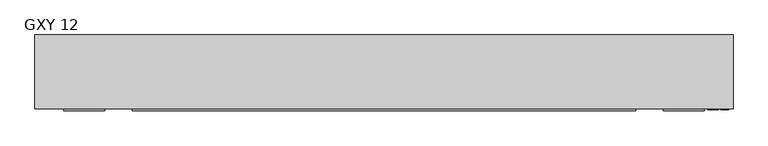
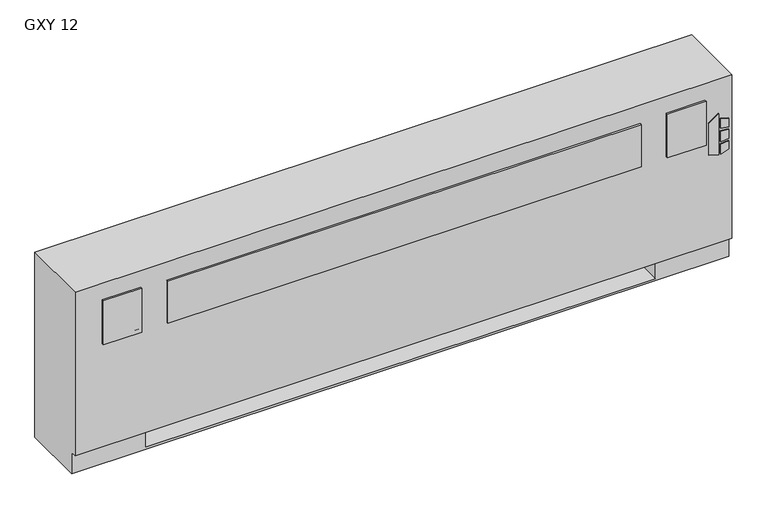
"""IFC4 building model written with IfcOpenShell, lengths in millimetres: proxy geometry, Vertical_Fan_Coil_Unit_-_GXY_-_IEC_-_2-Pipe_FS-FR_LH_2022 : GXY 12."""

from ifc_helpers import new_model, si_unit, point, frame, frame_2d, origin, place, context, project, spatial, polyline, circle_curve, trimmed, segment, composite_curve, outline, extrude, source, transform, mapped, element, save
from ifc_brep_helpers import plane_surface, revolved_surface, advanced_brep


def gxy_12_1a190441(model_context):
    return source(origin(), model_context, "Body", "SolidModel", [
        extrude(outline(polyline([(391.6086829, 1154.1868862), (381.6606126, 1186.3602728), (523.831537, 1186.3602728), (500.8095309, 1154.1868862), (391.6086829, 1154.1868862)])), frame((0.0, 12.7, 0.0), z_axis=(0.0, 1.0, 0.0), x_axis=(0.0, 0.0, 1.0)), (0.0, 0.0, 1.0), 3.175),
        extrude(outline(polyline([(470.6079683, 1193.1186058), (467.4055757, 1219.2), (496.6344168, 1219.2), (504.6988318, 1193.1186058), (470.6079683, 1193.1186058)])), frame((0.0, 12.7, 0.0), z_axis=(0.0, 1.0, 0.0), x_axis=(0.0, 0.0, 1.0)), (0.0, 0.0, 1.0), 3.175),
        extrude(outline(polyline([(418.7444414, 1219.2), (415.0789404, 1193.1186058), (381.6606126, 1193.1186058), (390.2948498, 1219.2), (418.7444414, 1219.2)])), frame((0.0, 12.7, 0.0), z_axis=(0.0, 1.0, 0.0), x_axis=(0.0, 0.0, 1.0)), (0.0, 0.0, 1.0), 3.175),
        extrude(outline(polyline([(458.0596028, 1219.2), (460.3414292, 1193.1186058), (424.4038806, 1193.1186058), (427.1451456, 1219.2), (458.0596028, 1219.2)])), frame((0.0, 12.7, 0.0), z_axis=(0.0, 1.0, 0.0), x_axis=(0.0, 0.0, 1.0)), (0.0, 0.0, 1.0), 3.175),
        extrude(outline(polyline([(-711.2, 9.525), (-838.2, 9.525), (-838.2, 15.875), (-711.2, 15.875), (-711.2, 9.525)])), frame((0.0, 0.0, 431.8), z_axis=(0.0, 0.0, 1.0), x_axis=(1.0, 0.0, 0.0)), (0.0, 0.0, 1.0), 152.4),
        extrude(outline(polyline([(930.275, 9.525), (-625.475, 9.525), (-625.475, 15.875), (930.275, 15.875), (930.275, 9.525)])), frame((0.0, 0.0, 431.8), z_axis=(0.0, 0.0, 1.0), x_axis=(1.0, 0.0, 0.0)), (0.0, 0.0, 1.0), 146.05),
        extrude(outline(polyline([(1143.0, 9.525), (1016.0, 9.525), (1016.0, 15.875), (1143.0, 15.875), (1143.0, 9.525)])), frame((0.0, 0.0, 431.8), z_axis=(0.0, 0.0, 1.0), x_axis=(1.0, 0.0, 0.0)), (0.0, 0.0, 1.0), 152.4),
        extrude(outline(polyline([(990.6, 81.534), (990.6, 223.266), (1111.25, 223.266), (1111.25, 81.534), (990.6, 81.534)])), frame((0.0, 0.0, 327.025), z_axis=(0.0, 0.0, 1.0), x_axis=(1.0, 0.0, 0.0)), (0.0, 0.0, 1.0), 260.35),
        extrude(outline(composite_curve([segment(trimmed(circle_curve(frame_2d((78.9432, 398.5514)), 7.9375), [point((78.9432, 406.4889))], [point((78.9432, 390.6139))], False, "CARTESIAN"), True, "CONTINUOUS"), segment(trimmed(circle_curve(frame_2d((78.9432, 398.5514)), 7.9375), [point((78.9432, 390.6139))], [point((78.9432, 406.4889))], False, "CARTESIAN"), True, "CONTINUOUS")], self_intersect=False)), frame((-736.6, 0.0, 0.0), z_axis=(1.0, 0.0, 0.0), x_axis=(0.0, 1.0, 0.0)), (0.0, 0.0, 1.0), 50.8),
        extrude(outline(composite_curve([segment(trimmed(circle_curve(frame_2d((155.9052, 537.3878)), 7.9375), [point((155.9052, 545.3253))], [point((155.9052, 529.4503))], False, "CARTESIAN"), True, "CONTINUOUS"), segment(trimmed(circle_curve(frame_2d((155.9052, 537.3878)), 7.9375), [point((155.9052, 529.4503))], [point((155.9052, 545.3253))], False, "CARTESIAN"), True, "CONTINUOUS")], self_intersect=False)), frame((-736.6, 0.0, 0.0), z_axis=(1.0, 0.0, 0.0), x_axis=(0.0, 1.0, 0.0)), (0.0, 0.0, 1.0), 50.8),
        advanced_brep(
        [(1231.9, 244.475, 641.35), (-927.1, 244.475, 641.35), (-927.1, 15.875, 641.35), (1231.9, 15.875, 641.35), (-927.1, 244.475, 0.0), (1231.9, 244.475, 0.0), (1231.9, 34.925, 0.0), (-927.1, 34.925, 0.0), (990.6, 244.475, 73.025), (1219.2, 244.475, 73.025), (1219.2, 244.475, 628.65), (990.6, 244.475, 628.65), (990.6, 244.475, 418.0400565), (1019.175, 244.475, 418.0400565), (1019.175, 244.475, 388.4099435), (990.6, 244.475, 388.4099435), (990.6, 244.475, 290.5125), (1019.175, 244.475, 290.5125), (1019.175, 244.475, 261.9375), (990.6, 244.475, 261.9375), (990.6, 244.475, 119.0625), (1019.175, 244.475, 119.0625), (1019.175, 244.475, 90.4875), (990.6, 244.475, 90.4875), (-685.8, 244.475, 628.65), (-914.4, 244.475, 628.65), (-914.4, 244.475, 73.025), (-685.8, 244.475, 73.025), (-685.8, 244.475, 90.4875), (-714.375, 244.475, 90.4875), (-714.375, 244.475, 119.0625), (-685.8, 244.475, 119.0625), (-685.8, 244.475, 261.9375), (-714.375, 244.475, 261.9375), (-714.375, 244.475, 290.5125), (-685.8, 244.475, 290.5125), (-685.8, 244.475, 388.4099435), (-714.375, 244.475, 388.4099435), (-714.375, 244.475, 418.0400565), (-685.8, 244.475, 418.0400565), (1008.8626, 244.475, 104.775), (997.7374, 244.475, 104.775), (1008.8626, 244.475, 403.225), (997.7374, 244.475, 403.225), (1008.8626, 244.475, 276.225), (997.7374, 244.475, 276.225), (-692.9374, 244.475, 104.775), (-704.0626, 244.475, 104.775), (-692.9374, 244.475, 276.225), (-704.0626, 244.475, 276.225), (-692.9374, 244.475, 403.225), (-704.0626, 244.475, 403.225), (-927.1, 34.925, 73.025), (-927.1, 15.875, 73.025), (1231.9, 15.875, 73.025), (1231.9, 34.925, 73.025), (-685.8, 34.925, 73.025), (-685.8, 219.075, 73.025), (990.6, 219.075, 73.025), (990.6, 34.925, 73.025), (990.6, 34.925, 6.35), (-685.8, 34.925, 6.35), (990.6, 41.275, 628.65), (1219.2, 41.275, 628.65), (1219.2, 41.275, 73.025), (990.6, 41.275, 73.025), (-685.8, 41.275, 628.65), (-685.8, 41.275, 73.025), (-914.4, 41.275, 73.025), (-914.4, 41.275, 628.65), (990.6, 219.075, 73.025), (990.6, 238.125, 90.4875), (990.6, 238.125, 119.0625), (990.6, 238.125, 261.9375), (990.6, 238.125, 290.5125), (990.6, 238.125, 388.4099435), (990.6, 238.125, 418.0400565), (-685.8, 219.075, 73.025), (-685.8, 238.125, 418.0400565), (-685.8, 238.125, 388.4099435), (-685.8, 238.125, 290.5125), (-685.8, 238.125, 261.9375), (-685.8, 238.125, 119.0625), (-685.8, 238.125, 90.4875), (-685.8, 219.075, 6.35), (990.6, 219.075, 6.35), (1019.175, 238.125, 90.4875), (1019.175, 238.125, 119.0625), (997.7374, 238.125, 104.775), (1008.8626, 238.125, 104.775), (1019.175, 238.125, 261.9375), (1019.175, 238.125, 290.5125), (997.7374, 238.125, 276.225), (1008.8626, 238.125, 276.225), (1019.175, 238.125, 388.4099435), (1019.175, 238.125, 418.0400565), (997.7374, 238.125, 403.225), (1008.8626, 238.125, 403.225), (-714.375, 238.125, 119.0625), (-714.375, 238.125, 90.4875), (-704.0626, 238.125, 104.775), (-692.9374, 238.125, 104.775), (-714.375, 238.125, 290.5125), (-714.375, 238.125, 261.9375), (-704.0626, 238.125, 276.225), (-692.9374, 238.125, 276.225), (-714.375, 238.125, 418.0400565), (-714.375, 238.125, 388.4099435), (-704.0626, 238.125, 403.225), (-692.9374, 238.125, 403.225)],
        [
            (0, 1),
            (1, 2),
            (2, 3),
            (3, 0),
            (4, 5),
            (5, 6),
            (6, 7),
            (7, 4),
            (0, 5),
            (4, 1),
            (8, 9),
            (9, 10),
            (10, 11),
            (11, 12),
            (12, 13),
            (13, 14),
            (14, 15),
            (15, 16),
            (16, 17),
            (17, 18),
            (18, 19),
            (19, 20),
            (20, 21),
            (21, 22),
            (22, 23),
            (23, 8),
            (24, 25),
            (25, 26),
            (26, 27),
            (27, 28),
            (28, 29),
            (29, 30),
            (30, 31),
            (31, 32),
            (32, 33),
            (33, 34),
            (34, 35),
            (35, 36),
            (36, 37),
            (37, 38),
            (38, 39),
            (39, 24),
            (40, 41, circle_curve(frame((1003.3, 244.475, 104.775), z_axis=(0.0, -1.0, 0.0), x_axis=(-1.0, 0.0, 0.0)), 5.5626)),
            (41, 40, circle_curve(frame((1003.3, 244.475, 104.775), z_axis=(0.0, -1.0, 0.0), x_axis=(-1.0, 0.0, 0.0)), 5.5626)),
            (42, 43, circle_curve(frame((1003.3, 244.475, 403.225), z_axis=(0.0, -1.0, 0.0), x_axis=(-1.0, 0.0, 0.0)), 5.5626)),
            (43, 42, circle_curve(frame((1003.3, 244.475, 403.225), z_axis=(0.0, -1.0, 0.0), x_axis=(-1.0, 0.0, 0.0)), 5.5626)),
            (44, 45, circle_curve(frame((1003.3, 244.475, 276.225), z_axis=(0.0, -1.0, 0.0), x_axis=(-1.0, 0.0, 0.0)), 5.5626)),
            (45, 44, circle_curve(frame((1003.3, 244.475, 276.225), z_axis=(0.0, -1.0, 0.0), x_axis=(-1.0, 0.0, 0.0)), 5.5626)),
            (46, 47, circle_curve(frame((-698.5, 244.475, 104.775), z_axis=(0.0, -1.0, 0.0), x_axis=(-1.0, 0.0, 0.0)), 5.5626)),
            (47, 46, circle_curve(frame((-698.5, 244.475, 104.775), z_axis=(0.0, -1.0, 0.0), x_axis=(-1.0, 0.0, 0.0)), 5.5626)),
            (48, 49, circle_curve(frame((-698.5, 244.475, 276.225), z_axis=(0.0, -1.0, 0.0), x_axis=(-1.0, 0.0, 0.0)), 5.5626)),
            (49, 48, circle_curve(frame((-698.5, 244.475, 276.225), z_axis=(0.0, -1.0, 0.0), x_axis=(-1.0, 0.0, 0.0)), 5.5626)),
            (50, 51, circle_curve(frame((-698.5, 244.475, 403.225), z_axis=(0.0, -1.0, 0.0), x_axis=(-1.0, 0.0, 0.0)), 5.5626)),
            (51, 50, circle_curve(frame((-698.5, 244.475, 403.225), z_axis=(0.0, -1.0, 0.0), x_axis=(-1.0, 0.0, 0.0)), 5.5626)),
            (7, 52),
            (52, 53),
            (53, 2),
            (53, 54),
            (54, 3),
            (54, 55),
            (55, 6),
            (52, 56),
            (56, 57),
            (57, 58),
            (58, 59),
            (59, 55),
            (59, 60),
            (60, 61),
            (61, 56),
            (62, 63),
            (63, 64),
            (64, 65),
            (65, 62),
            (66, 67),
            (67, 68),
            (68, 69),
            (69, 66),
            (65, 70),
            (70, 8),
            (23, 71),
            (71, 72),
            (72, 20),
            (19, 73),
            (73, 74),
            (74, 16),
            (15, 75),
            (75, 76),
            (76, 12),
            (11, 62),
            (64, 9),
            (63, 10),
            (69, 25),
            (24, 66),
            (68, 26),
            (67, 77),
            (77, 27),
            (39, 78),
            (78, 79),
            (79, 36),
            (35, 80),
            (80, 81),
            (81, 32),
            (31, 82),
            (82, 83),
            (83, 28),
            (57, 84),
            (84, 85),
            (85, 58),
            (85, 60),
            (84, 61),
            (71, 86),
            (86, 87),
            (87, 72),
            (88, 89, circle_curve(frame((1003.3, 238.125, 104.775), z_axis=(0.0, 1.0, 0.0), x_axis=(-1.0, 0.0, 0.0)), 5.5626)),
            (89, 88, circle_curve(frame((1003.3, 238.125, 104.775), z_axis=(0.0, 1.0, 0.0), x_axis=(-1.0, 0.0, 0.0)), 5.5626)),
            (73, 90),
            (90, 91),
            (91, 74),
            (92, 93, circle_curve(frame((1003.3, 238.125, 276.225), z_axis=(0.0, 1.0, 0.0), x_axis=(-1.0, 0.0, 0.0)), 5.5626)),
            (93, 92, circle_curve(frame((1003.3, 238.125, 276.225), z_axis=(0.0, 1.0, 0.0), x_axis=(-1.0, 0.0, 0.0)), 5.5626)),
            (75, 94),
            (94, 95),
            (95, 76),
            (96, 97, circle_curve(frame((1003.3, 238.125, 403.225), z_axis=(0.0, 1.0, 0.0), x_axis=(-1.0, 0.0, 0.0)), 5.5626)),
            (97, 96, circle_curve(frame((1003.3, 238.125, 403.225), z_axis=(0.0, 1.0, 0.0), x_axis=(-1.0, 0.0, 0.0)), 5.5626)),
            (98, 99),
            (99, 83),
            (82, 98),
            (100, 101, circle_curve(frame((-698.5, 238.125, 104.775), z_axis=(0.0, 1.0, 0.0), x_axis=(-1.0, 0.0, 0.0)), 5.5626)),
            (101, 100, circle_curve(frame((-698.5, 238.125, 104.775), z_axis=(0.0, 1.0, 0.0), x_axis=(-1.0, 0.0, 0.0)), 5.5626)),
            (102, 103),
            (103, 81),
            (80, 102),
            (104, 105, circle_curve(frame((-698.5, 238.125, 276.225), z_axis=(0.0, 1.0, 0.0), x_axis=(-1.0, 0.0, 0.0)), 5.5626)),
            (105, 104, circle_curve(frame((-698.5, 238.125, 276.225), z_axis=(0.0, 1.0, 0.0), x_axis=(-1.0, 0.0, 0.0)), 5.5626)),
            (106, 107),
            (107, 79),
            (78, 106),
            (108, 109, circle_curve(frame((-698.5, 238.125, 403.225), z_axis=(0.0, 1.0, 0.0), x_axis=(-1.0, 0.0, 0.0)), 5.5626)),
            (109, 108, circle_curve(frame((-698.5, 238.125, 403.225), z_axis=(0.0, 1.0, 0.0), x_axis=(-1.0, 0.0, 0.0)), 5.5626)),
            (87, 21),
            (86, 22),
            (91, 17),
            (90, 18),
            (95, 13),
            (94, 14),
            (30, 98),
            (99, 29),
            (34, 102),
            (103, 33),
            (38, 106),
            (107, 37),
            (88, 41),
            (40, 89),
            (96, 43),
            (42, 97),
            (92, 45),
            (44, 93),
            (100, 47),
            (46, 101),
            (104, 49),
            (48, 105),
            (108, 51),
            (50, 109),
        ],
        [
            plane_surface(frame((-927.1, 244.475, 641.35), z_axis=(0.0, 0.0, 1.0), x_axis=(-1.0, 0.0, 0.0))),
            plane_surface(frame((-927.1, 244.475, 0.0), z_axis=(0.0, 0.0, -1.0), x_axis=(1.0, 0.0, 0.0))),
            plane_surface(frame((1231.9, 244.475, 641.35), z_axis=(0.0, 1.0, 0.0), x_axis=(0.0, 0.0, -1.0))),
            plane_surface(frame((-927.1, 244.475, 641.35), z_axis=(-1.0, 0.0, 0.0), x_axis=(0.0, 0.0, -1.0))),
            plane_surface(frame((-927.1, 15.875, 641.35), z_axis=(0.0, -1.0, 0.0), x_axis=(0.0, 0.0, -1.0))),
            plane_surface(frame((1231.9, 15.875, 641.35), z_axis=(1.0, 0.0, 0.0), x_axis=(0.0, 0.0, -1.0))),
            plane_surface(frame((-927.1, 15.875, 73.025), z_axis=(0.0, 0.0, -1.0), x_axis=(1.0, 0.0, 0.0))),
            plane_surface(frame((-927.1, 34.925, 73.025), z_axis=(0.0, -1.0, 0.0), x_axis=(1.0, 0.0, 0.0))),
            plane_surface(frame((990.6, 41.275, 628.65), z_axis=(0.0, 1.0, 0.0), x_axis=(0.0, 0.0, -1.0))),
            plane_surface(frame((990.6, 41.275, 628.65), z_axis=(1.0, 0.0, 0.0), x_axis=(0.0, 1.0, 0.0))),
            plane_surface(frame((990.6, 41.275, 73.025), z_axis=(0.0, 0.0, 1.0), x_axis=(0.0, 1.0, 0.0))),
            plane_surface(frame((1219.2, 41.275, 73.025), z_axis=(-1.0, 0.0, 0.0), x_axis=(0.0, 1.0, 0.0))),
            plane_surface(frame((1219.2, 41.275, 628.65), z_axis=(0.0, 0.0, -1.0), x_axis=(0.0, 1.0, 0.0))),
            plane_surface(frame((-685.8, 41.275, 628.65), z_axis=(0.0, 0.0, -1.0), x_axis=(0.0, 1.0, 0.0))),
            plane_surface(frame((-914.4, 41.275, 628.65), z_axis=(1.0, 0.0, 0.0), x_axis=(0.0, 1.0, 0.0))),
            plane_surface(frame((-914.4, 41.275, 73.025), z_axis=(0.0, 0.0, 1.0), x_axis=(0.0, 1.0, 0.0))),
            plane_surface(frame((-685.8, 41.275, 73.025), z_axis=(-1.0, 0.0, 0.0), x_axis=(0.0, 1.0, 0.0))),
            plane_surface(frame((990.6, 219.075, 73.025), z_axis=(0.0, -1.0, 0.0), x_axis=(0.0, 0.0, -1.0))),
            plane_surface(frame((990.6, 219.075, 73.025), z_axis=(-1.0, 0.0, 0.0), x_axis=(0.0, -1.0, 0.0))),
            plane_surface(frame((990.6, 219.075, 6.35), z_axis=(0.0, 0.0, 1.0), x_axis=(0.0, -1.0, 0.0))),
            plane_surface(frame((-685.8, 219.075, 6.35), z_axis=(1.0, 0.0, 0.0), x_axis=(0.0, -1.0, 0.0))),
            plane_surface(frame((1019.175, 238.125, 119.0625), z_axis=(0.0, -1.0, 0.0), x_axis=(-1.0, 0.0, 0.0))),
            plane_surface(frame((990.6, 244.475, 119.0625), z_axis=(0.0, 0.0, 1.0), x_axis=(0.0, -1.0, 0.0))),
            plane_surface(frame((1019.175, 244.475, 119.0625), z_axis=(1.0, 0.0, 0.0), x_axis=(0.0, -1.0, 0.0))),
            plane_surface(frame((1019.175, 244.475, 90.4875), z_axis=(0.0, 0.0, -1.0), x_axis=(0.0, -1.0, 0.0))),
            plane_surface(frame((990.6, 244.475, 290.5125), z_axis=(0.0, 0.0, 1.0), x_axis=(0.0, -1.0, 0.0))),
            plane_surface(frame((1019.175, 244.475, 290.5125), z_axis=(1.0, 0.0, 0.0), x_axis=(0.0, -1.0, 0.0))),
            plane_surface(frame((1019.175, 244.475, 261.9375), z_axis=(0.0, 0.0, -1.0), x_axis=(0.0, -1.0, 0.0))),
            plane_surface(frame((990.6, 244.475, 418.0400565), z_axis=(0.0, 0.0, 1.0), x_axis=(0.0, -1.0, 0.0))),
            plane_surface(frame((1019.175, 244.475, 418.0400565), z_axis=(1.0, 0.0, 0.0), x_axis=(0.0, -1.0, 0.0))),
            plane_surface(frame((1019.175, 244.475, 388.4099435), z_axis=(0.0, 0.0, -1.0), x_axis=(0.0, -1.0, 0.0))),
            plane_surface(frame((-714.375, 244.475, 119.0625), z_axis=(0.0, 0.0, 1.0), x_axis=(0.0, -1.0, 0.0))),
            plane_surface(frame((-685.8, 244.475, 90.4875), z_axis=(0.0, 0.0, -1.0), x_axis=(0.0, -1.0, 0.0))),
            plane_surface(frame((-714.375, 244.475, 90.4875), z_axis=(-1.0, 0.0, 0.0), x_axis=(0.0, -1.0, 0.0))),
            plane_surface(frame((-714.375, 244.475, 290.5125), z_axis=(0.0, 0.0, 1.0), x_axis=(0.0, -1.0, 0.0))),
            plane_surface(frame((-685.8, 244.475, 261.9375), z_axis=(0.0, 0.0, -1.0), x_axis=(0.0, -1.0, 0.0))),
            plane_surface(frame((-714.375, 244.475, 261.9375), z_axis=(-1.0, 0.0, 0.0), x_axis=(0.0, -1.0, 0.0))),
            plane_surface(frame((-714.375, 244.475, 418.0400565), z_axis=(0.0, 0.0, 1.0), x_axis=(0.0, -1.0, 0.0))),
            plane_surface(frame((-685.8, 244.475, 388.4099435), z_axis=(0.0, 0.0, -1.0), x_axis=(0.0, -1.0, 0.0))),
            plane_surface(frame((-714.375, 244.475, 388.4099435), z_axis=(-1.0, 0.0, 0.0), x_axis=(0.0, -1.0, 0.0))),
            revolved_surface(polyline([(997.7374, 238.125, 104.775), (997.7374, 244.475, 104.775)]), (1003.3, 244.475, 104.775), (0.0, -1.0, 0.0)),
            revolved_surface(polyline([(997.7374, 238.125, 403.225), (997.7374, 244.475, 403.225)]), (1003.3, 244.475, 403.225), (0.0, -1.0, 0.0)),
            revolved_surface(polyline([(997.7374, 238.125, 276.225), (997.7374, 244.475, 276.225)]), (1003.3, 244.475, 276.225), (0.0, -1.0, 0.0)),
            revolved_surface(polyline([(-704.0626, 238.125, 104.775), (-704.0626, 244.475, 104.775)]), (-698.5, 244.475, 104.775), (0.0, -1.0, 0.0)),
            revolved_surface(polyline([(-704.0626, 238.125, 276.225), (-704.0626, 244.475, 276.225)]), (-698.5, 244.475, 276.225), (0.0, -1.0, 0.0)),
            revolved_surface(polyline([(-704.0626, 238.125, 403.225), (-704.0626, 244.475, 403.225)]), (-698.5, 244.475, 403.225), (0.0, -1.0, 0.0)),
        ],
        [
            (0, [[1, 2, 3, 4]]),
            (1, [[5, 6, 7, 8]]),
            (2, [[-1, 9, -5, 10], [11, 12, 13, 14, 15, 16, 17, 18, 19, 20, 21, 22, 23, 24, 25, 26], [27, 28, 29, 30, 31, 32, 33, 34, 35, 36, 37, 38, 39, 40, 41, 42], [43, 44], [45, 46], [47, 48], [49, 50], [51, 52], [53, 54]]),
            (3, [[-2, -10, -8, 55, 56, 57]]),
            (4, [[-3, -57, 58, 59]]),
            (5, [[-4, -59, 60, 61, -6, -9]]),
            (6, [[-56, 62, 63, 64, 65, 66, -60, -58]]),
            (7, [[-7, -61, -66, 67, 68, 69, -62, -55]]),
            (8, [[70, 71, 72, 73]]),
            (8, [[74, 75, 76, 77]]),
            (9, [[-73, 78, 79, -26, 80, 81, 82, -22, 83, 84, 85, -18, 86, 87, 88, -14, 89]]),
            (10, [[-72, 90, -11, -79, -78]]),
            (11, [[-71, 91, -12, -90]]),
            (12, [[-70, -89, -13, -91]]),
            (13, [[-77, 92, -27, 93]]),
            (14, [[-76, 94, -28, -92]]),
            (15, [[-75, 95, 96, -29, -94]]),
            (16, [[-74, -93, -42, 97, 98, 99, -38, 100, 101, 102, -34, 103, 104, 105, -30, -96, -95]]),
            (17, [[-64, 106, 107, 108]]),
            (18, [[-108, 109, -67, -65]]),
            (19, [[-107, 110, -68, -109]]),
            (20, [[-106, -63, -69, -110]]),
            (21, [[111, 112, 113, -81], [114, 115]]),
            (21, [[116, 117, 118, -84], [119, 120]]),
            (21, [[121, 122, 123, -87], [124, 125]]),
            (21, [[126, 127, -104, 128], [129, 130]]),
            (21, [[131, 132, -101, 133], [134, 135]]),
            (21, [[136, 137, -98, 138], [139, 140]]),
            (22, [[-113, 141, -23, -82]]),
            (23, [[-112, 142, -24, -141]]),
            (24, [[-111, -80, -25, -142]]),
            (25, [[-118, 143, -19, -85]]),
            (26, [[-117, 144, -20, -143]]),
            (27, [[-116, -83, -21, -144]]),
            (28, [[-123, 145, -15, -88]]),
            (29, [[-122, 146, -16, -145]]),
            (30, [[-121, -86, -17, -146]]),
            (31, [[-128, -103, -33, 147]]),
            (32, [[-127, 148, -31, -105]]),
            (33, [[-126, -147, -32, -148]]),
            (34, [[-133, -100, -37, 149]]),
            (35, [[-132, 150, -35, -102]]),
            (36, [[-131, -149, -36, -150]]),
            (37, [[-138, -97, -41, 151]]),
            (38, [[-137, 152, -39, -99]]),
            (39, [[-136, -151, -40, -152]]),
            (40, [[153, -43, 154, -114]]),
            (40, [[-153, -115, -154, -44]]),
            (41, [[155, -45, 156, -124]]),
            (41, [[-155, -125, -156, -46]]),
            (42, [[157, -47, 158, -119]]),
            (42, [[-157, -120, -158, -48]]),
            (43, [[159, -49, 160, -129]]),
            (43, [[-159, -130, -160, -50]]),
            (44, [[161, -51, 162, -134]]),
            (44, [[-161, -135, -162, -52]]),
            (45, [[163, -53, 164, -139]]),
            (45, [[-163, -140, -164, -54]]),
        ],
    ),
    ])


if __name__ == "__main__":
    model = new_model("IFC4")
    model_context = context("Model", 3, world=origin())
    ifc_project = project(units=[si_unit("LENGTHUNIT", "METRE", prefix="MILLI")], contexts=[model_context])
    site = spatial("IfcSite", under=ifc_project)
    building = spatial("IfcBuilding", under=site)
    placement = place(None, origin())
    gxy_12_shape = gxy_12_1a190441(model_context)
    element("IfcBuildingElementProxy", 1, Name="Vertical_Fan_Coil_Unit_-_GXY_-_IEC_-_2-Pipe_FS-FR_LH_2022 : GXY 12", ObjectType="Vertical_Fan_Coil_Unit_-_GXY_-_IEC_-_2-Pipe_FS-FR_LH_2022 : GXY 12", at=placement, inside=building, context=model_context, shape_type="MappedRepresentation", body=[
        mapped(gxy_12_shape, transform((0.0, 0.0, 0.0), x_axis=(1.0, 0.0, 0.0), y_axis=(0.0, 1.0, 0.0), z_axis=(0.0, 0.0, 1.0))),
    ])
    save(model, "model.ifc")
